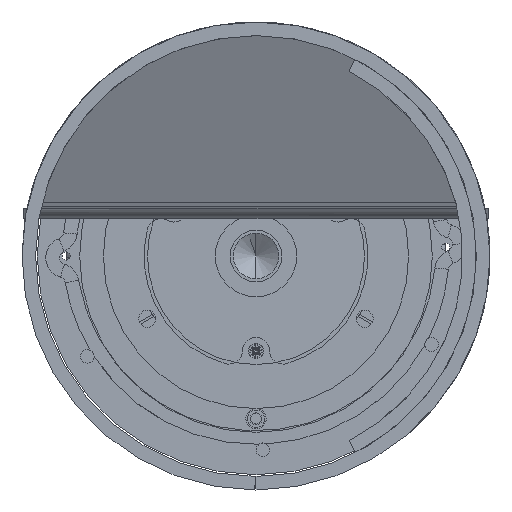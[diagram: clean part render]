
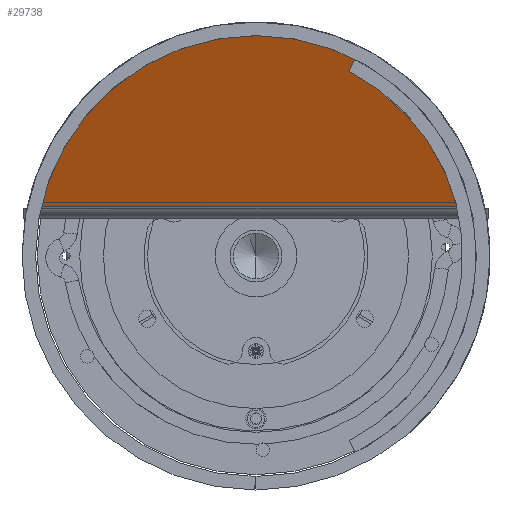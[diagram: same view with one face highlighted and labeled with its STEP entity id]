
A CAD part, front view. The second image highlights one B-rep face of the part: STEP entity #29738.
In plain terms, the highlighted planar face has unit normal (0, -0.913, -0.407).
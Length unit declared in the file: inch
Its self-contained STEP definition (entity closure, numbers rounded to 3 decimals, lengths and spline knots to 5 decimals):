
#460 = DIRECTION ( 'NONE',  ( 0., 0.914, 0.407 ) ) ;
#2063 = DIRECTION ( 'NONE',  ( 0., 0.914, 0.407 ) ) ;
#3855 = DIRECTION ( 'NONE',  ( 0., 0.914, 0.407 ) ) ;
#4388 = AXIS2_PLACEMENT_3D ( 'NONE', #42953, #14744, #36283 ) ;
#5420 = EDGE_CURVE ( 'NONE', #19227, #32422, #40114, .T. ) ;
#5795 = CARTESIAN_POINT ( 'NONE',  ( 4.1604, 128.22237, 0.91294 ) ) ;
#7350 = DIRECTION ( 'NONE',  ( 0., -0.407, 0.914 ) ) ;
#7481 = CARTESIAN_POINT ( 'NONE',  ( 0., 128.41726, 0.47522 ) ) ;
#7873 = ORIENTED_EDGE ( 'NONE', *, *, #12056, .F. ) ;
#10055 = AXIS2_PLACEMENT_3D ( 'NONE', #7481, #3855, #7350 ) ;
#10531 = AXIS2_PLACEMENT_3D ( 'NONE', #36137, #2063, #23042 ) ;
#10717 = DIRECTION ( 'NONE',  ( 0., -0.407, 0.914 ) ) ;
#10777 = ORIENTED_EDGE ( 'NONE', *, *, #5420, .F. ) ;
#11212 = AXIS2_PLACEMENT_3D ( 'NONE', #23380, #26891, #44406 ) ;
#12056 = EDGE_CURVE ( 'NONE', #32422, #17698, #39973, .T. ) ;
#13572 = EDGE_CURVE ( 'NONE', #26536, #19041, #37744, .T. ) ;
#14744 = DIRECTION ( 'NONE',  ( 0., 0.914, 0.407 ) ) ;
#14799 = DIRECTION ( 'NONE',  ( -1., 0., 0. ) ) ;
#16815 = ORIENTED_EDGE ( 'NONE', *, *, #29012, .F. ) ;
#16839 = CARTESIAN_POINT ( 'NONE',  ( -4.1604, 128.22237, 0.91294 ) ) ;
#17698 = VERTEX_POINT ( 'NONE', #5795 ) ;
#19041 = VERTEX_POINT ( 'NONE', #35896 ) ;
#19227 = VERTEX_POINT ( 'NONE', #43814 ) ;
#19568 = ORIENTED_EDGE ( 'NONE', *, *, #35390, .F. ) ;
#19801 = FACE_OUTER_BOUND ( 'NONE', #40502, .T. ) ;
#23042 = DIRECTION ( 'NONE',  ( 0., -0.407, 0.914 ) ) ;
#23380 = CARTESIAN_POINT ( 'NONE',  ( 0.6, 128.65912, -0.068 ) ) ;
#24798 = CARTESIAN_POINT ( 'NONE',  ( 0., 128.41726, 0.47522 ) ) ;
#25901 = AXIS2_PLACEMENT_3D ( 'NONE', #24798, #460, #10717 ) ;
#26536 = VERTEX_POINT ( 'NONE', #16839 ) ;
#26891 = DIRECTION ( 'NONE',  ( 0., 0.914, 0.407 ) ) ;
#29012 = EDGE_CURVE ( 'NONE', #17698, #26536, #29532, .T. ) ;
#29159 = PLANE ( 'NONE',  #4388 ) ;
#29532 = LINE ( 'NONE', #36019, #36597 ) ;
#29738 = ADVANCED_FACE ( 'NONE', ( #19801 ), #29159, .F. ) ;
#30699 = ORIENTED_EDGE ( 'NONE', *, *, #13572, .F. ) ;
#32422 = VERTEX_POINT ( 'NONE', #41430 ) ;
#34172 = CIRCLE ( 'NONE', #10055, 4.045 ) ;
#35390 = EDGE_CURVE ( 'NONE', #19041, #19227, #34172, .T. ) ;
#35896 = CARTESIAN_POINT ( 'NONE',  ( -2.35962, 127.08094, 3.47663 ) ) ;
#36019 = CARTESIAN_POINT ( 'NONE',  ( -28.76854, 128.22237, 0.91294 ) ) ;
#36137 = CARTESIAN_POINT ( 'NONE',  ( -0.6, 128.65912, -0.068 ) ) ;
#36283 = DIRECTION ( 'NONE',  ( 0., -0.407, 0.914 ) ) ;
#36597 = VECTOR ( 'NONE', #14799, 39.37008 ) ;
#37744 = CIRCLE ( 'NONE', #11212, 4.88 ) ;
#39973 = CIRCLE ( 'NONE', #10531, 4.88 ) ;
#40114 = CIRCLE ( 'NONE', #25901, 4.045 ) ;
#40502 = EDGE_LOOP ( 'NONE', ( #7873, #10777, #19568, #30699, #16815 ) ) ;
#41430 = CARTESIAN_POINT ( 'NONE',  ( 2.35962, 127.08094, 3.47663 ) ) ;
#42953 = CARTESIAN_POINT ( 'NONE',  ( 0.6, 128.65912, -0.068 ) ) ;
#43814 = CARTESIAN_POINT ( 'NONE',  ( 0., 126.77201, 4.17051 ) ) ;
#44406 = DIRECTION ( 'NONE',  ( 0., -0.407, 0.914 ) ) ;
